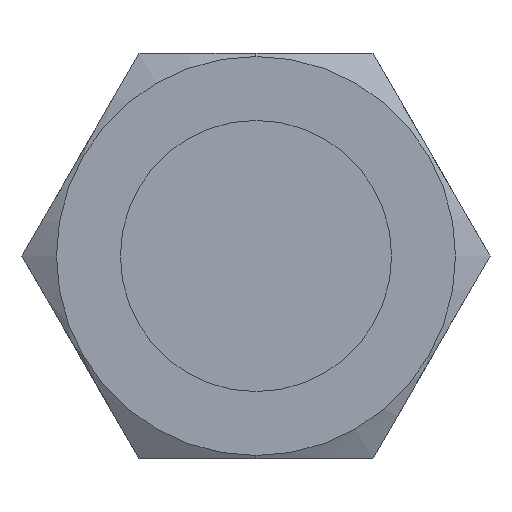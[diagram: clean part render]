
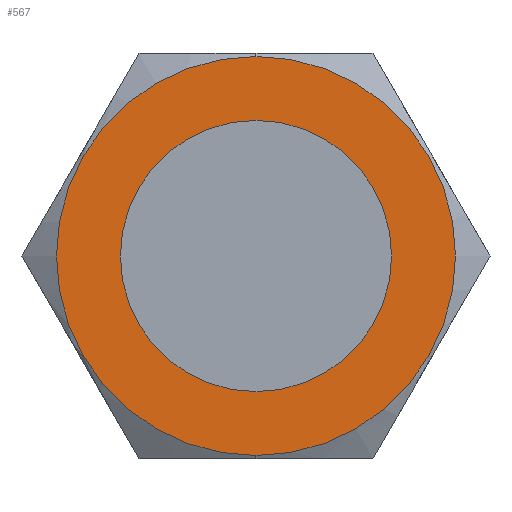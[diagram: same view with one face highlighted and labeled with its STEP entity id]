
A CAD part, front view. The second image highlights one B-rep face of the part: STEP entity #567.
In plain terms, the highlighted planar face has unit normal (0, -1, 0).
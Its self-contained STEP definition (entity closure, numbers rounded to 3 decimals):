
#69 = VERTEX_POINT ( 'NONE', #738 ) ;
#70 = VERTEX_POINT ( 'NONE', #719 ) ;
#79 = VERTEX_POINT ( 'NONE', #725 ) ;
#81 = EDGE_CURVE ( 'NONE', #79, #82, #704, .T. ) ;
#82 = VERTEX_POINT ( 'NONE', #699 ) ;
#84 = EDGE_CURVE ( 'NONE', #69, #70, #697, .T. ) ;
#432 = ORIENTED_EDGE ( 'NONE', *, *, #484, .F. ) ;
#435 = ORIENTED_EDGE ( 'NONE', *, *, #81, .F. ) ;
#436 = EDGE_LOOP ( 'NONE', ( #432, #435 ) ) ;
#437 = ORIENTED_EDGE ( 'NONE', *, *, #522, .T. ) ;
#439 = ORIENTED_EDGE ( 'NONE', *, *, #84, .T. ) ;
#484 = EDGE_CURVE ( 'NONE', #82, #79, #1477, .T. ) ;
#522 = EDGE_CURVE ( 'NONE', #70, #69, #1572, .T. ) ;
#539 = EDGE_LOOP ( 'NONE', ( #437, #439 ) ) ;
#567 = ADVANCED_FACE ( 'NONE', ( #1560, #1555 ), #1554, .T. ) ;
#693 = DIRECTION ( 'NONE',  ( 0., 0., -1. ) ) ;
#694 = DIRECTION ( 'NONE',  ( 0., -1., 0. ) ) ;
#695 = CARTESIAN_POINT ( 'NONE',  ( 0., -10., 0. ) ) ;
#696 = AXIS2_PLACEMENT_3D ( 'NONE', #695, #694, #693 ) ;
#697 = CIRCLE ( 'NONE', #696, 6.4 ) ;
#699 = CARTESIAN_POINT ( 'NONE',  ( 0., -10., -4.35 ) ) ;
#700 = DIRECTION ( 'NONE',  ( 0., 0., -1. ) ) ;
#701 = DIRECTION ( 'NONE',  ( 0., -1., 0. ) ) ;
#702 = CARTESIAN_POINT ( 'NONE',  ( 0., -10., 0. ) ) ;
#703 = AXIS2_PLACEMENT_3D ( 'NONE', #702, #701, #700 ) ;
#704 = CIRCLE ( 'NONE', #703, 4.35 ) ;
#719 = CARTESIAN_POINT ( 'NONE',  ( 0., -10., 6.4 ) ) ;
#725 = CARTESIAN_POINT ( 'NONE',  ( 0., -10., 4.35 ) ) ;
#738 = CARTESIAN_POINT ( 'NONE',  ( 0., -10., -6.4 ) ) ;
#1477 = CIRCLE ( 'NONE', #1537, 4.35 ) ;
#1500 = DIRECTION ( 'NONE',  ( 0., 0., -1. ) ) ;
#1501 = DIRECTION ( 'NONE',  ( 0., -1., 0. ) ) ;
#1536 = CARTESIAN_POINT ( 'NONE',  ( 0., -10., 0. ) ) ;
#1537 = AXIS2_PLACEMENT_3D ( 'NONE', #1536, #1501, #1500 ) ;
#1553 = AXIS2_PLACEMENT_3D ( 'NONE', #1565, #1564, #1563 ) ;
#1554 = PLANE ( 'NONE',  #1553 ) ;
#1555 = FACE_OUTER_BOUND ( 'NONE', #539, .T. ) ;
#1560 = FACE_BOUND ( 'NONE', #436, .T. ) ;
#1563 = DIRECTION ( 'NONE',  ( 0., 0., -1. ) ) ;
#1564 = DIRECTION ( 'NONE',  ( 0., -1., 0. ) ) ;
#1565 = CARTESIAN_POINT ( 'NONE',  ( 4.35, -10., 0. ) ) ;
#1568 = DIRECTION ( 'NONE',  ( 0., 0., -1. ) ) ;
#1569 = DIRECTION ( 'NONE',  ( 0., -1., 0. ) ) ;
#1570 = CARTESIAN_POINT ( 'NONE',  ( 0., -10., 0. ) ) ;
#1571 = AXIS2_PLACEMENT_3D ( 'NONE', #1570, #1569, #1568 ) ;
#1572 = CIRCLE ( 'NONE', #1571, 6.4 ) ;
